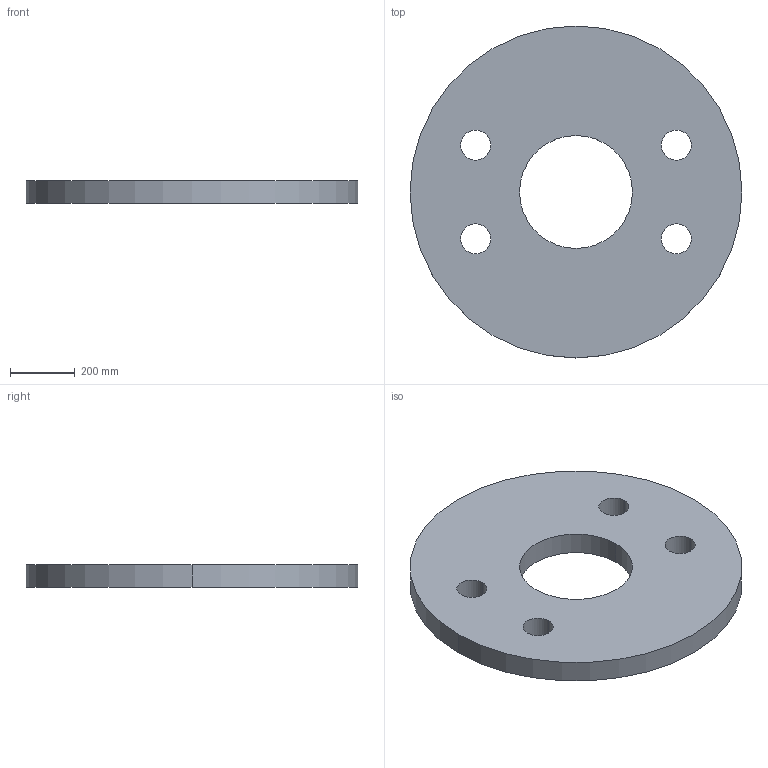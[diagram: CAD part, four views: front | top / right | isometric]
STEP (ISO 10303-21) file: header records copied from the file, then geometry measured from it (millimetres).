
FILE_DESCRIPTION (( 'STEP AP203' ), '1' );
FILE_NAME ('Kreissscheibe M85.STEP', '2018-02-22T05:55:47', ( 'install' ), ( 'Hewlett-Packard Company' ), 'SwSTEP 2.0', 'SolidWorks 2017', '' );
FILE_SCHEMA (( 'CONFIG_CONTROL_DESIGN' ));
Length unit declared in the file: millimetre
Products named in the file (1): Kreissscheibe M85
Bounding box: 1029 x 1029 x 70 mm (x, y, z)
Volume: 49576020.7 mm3; surface area: 1801522.7 mm2
Topology: 1 solids, 1 shells, 14 faces, 36 edges, 24 vertices
Faces by surface type: cylinder 12, plane 2
Entity records: 541 total; most frequent: DIRECTION 90, CARTESIAN_POINT 75, ORIENTED_EDGE 72, AXIS2_PLACEMENT_3D 39, EDGE_CURVE 36, EDGE_LOOP 24, CIRCLE 24, VERTEX_POINT 24
